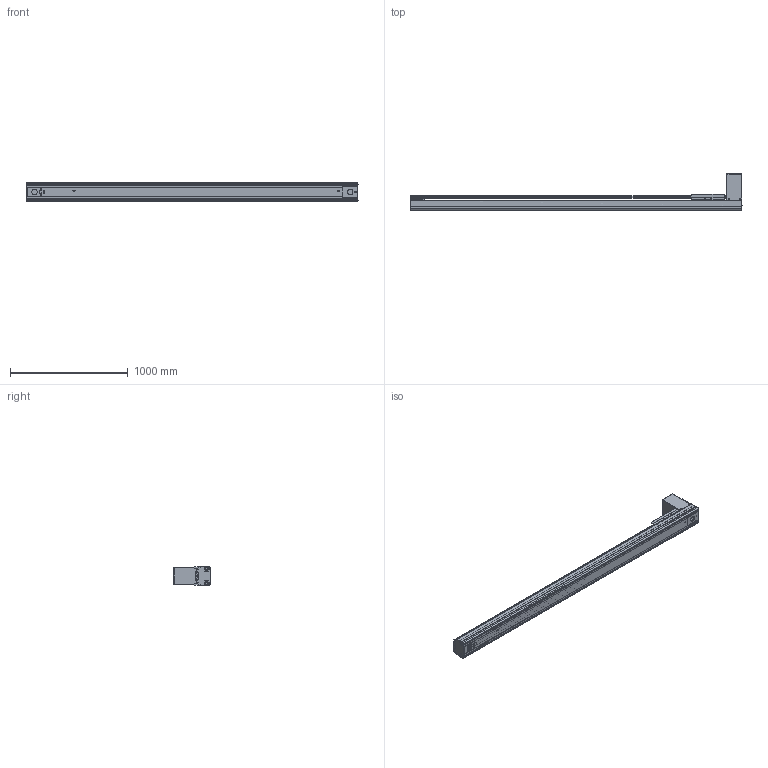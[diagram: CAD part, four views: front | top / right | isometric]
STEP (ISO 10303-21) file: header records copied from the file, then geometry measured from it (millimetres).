
FILE_DESCRIPTION((''),'2;1');
FILE_NAME('BE50G-BT-L19N-N5_IGS_PRT','2017-06-18T',(' '),(''),'PRO/ENGINEER BY PARAMETRIC TECHNOLOGY CORPORATION, 2015030','PRO/ENGINEER BY PARAMETRIC TECHNOLOGY CORPORATION, 2015030','');
FILE_SCHEMA(('CONFIG_CONTROL_DESIGN'));
Products named in the file (1): BE50G-BT-L19N-N5_IGS_PRT
Bounding box: 2820.08 x 309 x 160 mm (x, y, z)
Volume: 10748662.5 mm3; surface area: 4900906.9 mm2
Topology: 9 solids, 274 shells, 2141 faces, 6219 edges, 4268 vertices
Faces by surface type: cylinder 1113, plane 809, cone 176, sphere 23, torus 20
Entity records: 74797 total; most frequent: CARTESIAN_POINT 17726, DIRECTION 11815, ORIENTED_EDGE 11410, EDGE_CURVE 6145, AXIS2_PLACEMENT_3D 4473, VERTEX_POINT 4268, VECTOR 2869, LINE 2869
